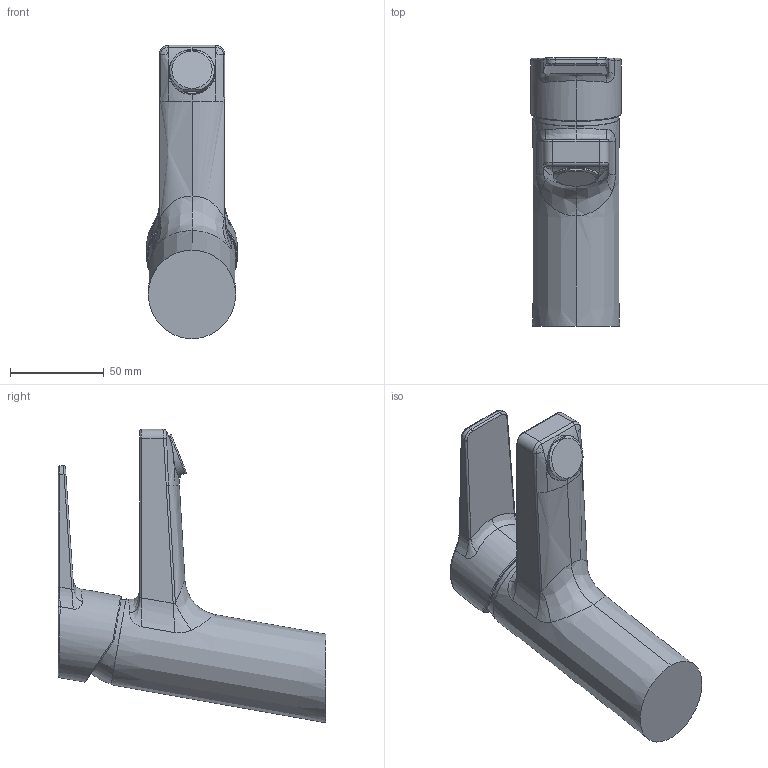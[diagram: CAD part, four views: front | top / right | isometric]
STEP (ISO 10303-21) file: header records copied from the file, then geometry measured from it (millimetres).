
FILE_DESCRIPTION (( 'STEP AP203' ), '1' );
FILE_NAME ('3810F-105-33(2023).STEP', '2023-05-29T04:03:08', ( '' ), ( '' ), 'SwSTEP 2.0', 'SolidWorks 2016', '' );
FILE_SCHEMA (( 'CONFIG_CONTROL_DESIGN' ));
Length unit declared in the file: millimetre
Products named in the file (1): 3810F-105-33(2023)
Bounding box: 48.49 x 142.85 x 156.41 mm (x, y, z)
Volume: 333639.1 mm3; surface area: 39873 mm2
Topology: 1 solids, 1 shells, 91 faces, 214 edges, 128 vertices
Faces by surface type: bspline 48, cylinder 21, plane 17, cone 4, torus 1
Entity records: 6547 total; most frequent: CARTESIAN_POINT 4851, ORIENTED_EDGE 428, EDGE_CURVE 214, DIRECTION 163, B_SPLINE_CURVE_WITH_KNOTS 146, VERTEX_POINT 128, EDGE_LOOP 94, ADVANCED_FACE 91
